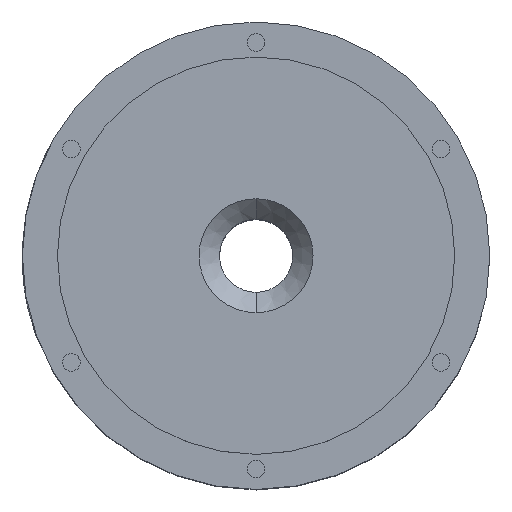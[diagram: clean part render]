
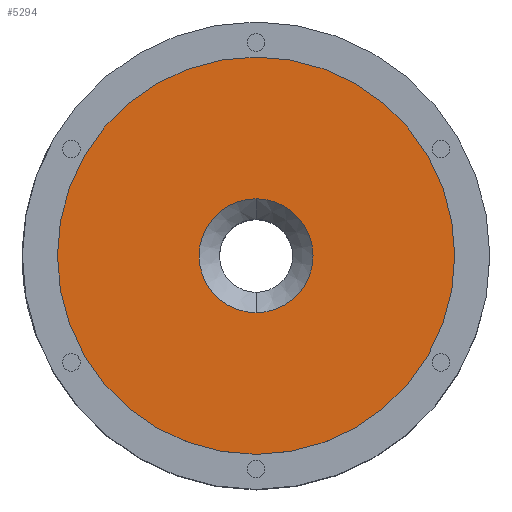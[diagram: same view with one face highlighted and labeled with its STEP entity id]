
A CAD part, top view. The second image highlights one B-rep face of the part: STEP entity #5294.
In plain terms, the highlighted planar face has unit normal (0, 0, 1).
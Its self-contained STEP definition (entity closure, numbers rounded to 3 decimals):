
#582 = EDGE_CURVE ( 'NONE', #590, #2861, #5583, .T. ) ;
#590 = VERTEX_POINT ( 'NONE', #5564 ) ;
#873 = CARTESIAN_POINT ( 'NONE',  ( 0., -68., 118. ) ) ;
#2787 = AXIS2_PLACEMENT_3D ( 'NONE', #2858, #2857, #2856 ) ;
#2803 = CIRCLE ( 'NONE', #2787, 19.5 ) ;
#2846 = DIRECTION ( 'NONE',  ( 0., 1., 0. ) ) ;
#2847 = DIRECTION ( 'NONE',  ( 0., 0., -1. ) ) ;
#2848 = CARTESIAN_POINT ( 'NONE',  ( 0., 0., 118. ) ) ;
#2849 = AXIS2_PLACEMENT_3D ( 'NONE', #2848, #2847, #2846 ) ;
#2854 = CIRCLE ( 'NONE', #2849, 68. ) ;
#2856 = DIRECTION ( 'NONE',  ( 0., -1., 0. ) ) ;
#2857 = DIRECTION ( 'NONE',  ( 0., 0., -1. ) ) ;
#2858 = CARTESIAN_POINT ( 'NONE',  ( 0., 0., 118. ) ) ;
#2861 = VERTEX_POINT ( 'NONE', #5758 ) ;
#2878 = DIRECTION ( 'NONE',  ( 0., -1., 0. ) ) ;
#2883 = FACE_BOUND ( 'NONE', #5153, .T. ) ;
#2888 = DIRECTION ( 'NONE',  ( 0., 0., 1. ) ) ;
#2891 = PLANE ( 'NONE',  #2893 ) ;
#2893 = AXIS2_PLACEMENT_3D ( 'NONE', #2895, #2888, #2878 ) ;
#2894 = FACE_OUTER_BOUND ( 'NONE', #5270, .T. ) ;
#2895 = CARTESIAN_POINT ( 'NONE',  ( 0., -12.5, 118. ) ) ;
#3848 = VERTEX_POINT ( 'NONE', #6026 ) ;
#3850 = EDGE_CURVE ( 'NONE', #3848, #4262, #6035, .T. ) ;
#4262 = VERTEX_POINT ( 'NONE', #873 ) ;
#5153 = EDGE_LOOP ( 'NONE', ( #5291, #5276 ) ) ;
#5266 = EDGE_CURVE ( 'NONE', #2861, #590, #2803, .T. ) ;
#5269 = EDGE_CURVE ( 'NONE', #4262, #3848, #2854, .T. ) ;
#5270 = EDGE_LOOP ( 'NONE', ( #5275, #5274 ) ) ;
#5274 = ORIENTED_EDGE ( 'NONE', *, *, #5269, .F. ) ;
#5275 = ORIENTED_EDGE ( 'NONE', *, *, #3850, .F. ) ;
#5276 = ORIENTED_EDGE ( 'NONE', *, *, #5266, .T. ) ;
#5291 = ORIENTED_EDGE ( 'NONE', *, *, #582, .T. ) ;
#5294 = ADVANCED_FACE ( 'NONE', ( #2883, #2894 ), #2891, .T. ) ;
#5560 = DIRECTION ( 'NONE',  ( 0., 0., -1. ) ) ;
#5564 = CARTESIAN_POINT ( 'NONE',  ( 0., -19.5, 118. ) ) ;
#5583 = CIRCLE ( 'NONE', #5620, 19.5 ) ;
#5603 = DIRECTION ( 'NONE',  ( 0., -1., 0. ) ) ;
#5618 = CARTESIAN_POINT ( 'NONE',  ( 0., 0., 118. ) ) ;
#5620 = AXIS2_PLACEMENT_3D ( 'NONE', #5618, #5560, #5603 ) ;
#5758 = CARTESIAN_POINT ( 'NONE',  ( 0., 19.5, 118. ) ) ;
#6017 = DIRECTION ( 'NONE',  ( 0., 1., 0. ) ) ;
#6018 = DIRECTION ( 'NONE',  ( 0., 0., -1. ) ) ;
#6025 = AXIS2_PLACEMENT_3D ( 'NONE', #6027, #6018, #6017 ) ;
#6026 = CARTESIAN_POINT ( 'NONE',  ( 0., 68., 118. ) ) ;
#6027 = CARTESIAN_POINT ( 'NONE',  ( 0., 0., 118. ) ) ;
#6035 = CIRCLE ( 'NONE', #6025, 68. ) ;
